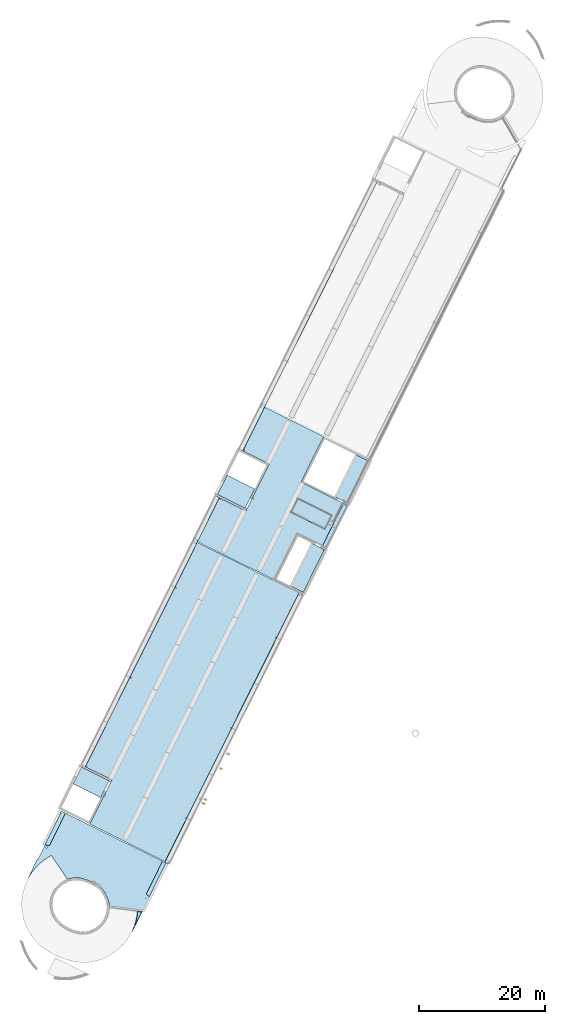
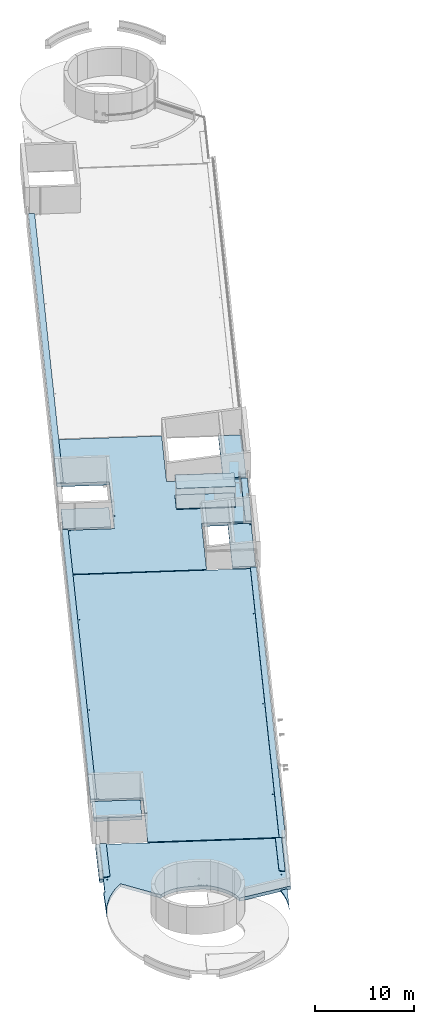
# One storey, part 2 of 34: 16 slabs, 18 openings, 2 elements without a shape of their own.
"""IFC2X3 building model written with IfcOpenShell, lengths in metres."""

from ifc_helpers import new_model, entity, si_unit, converted_unit, derived_unit, direction, frame, frame_2d, origin, origin_2d_with_axis, place, context, subcontext, project, spatial, polyline, circle_curve, parameter, trimmed, segment, composite_curve, rectangle, circle, outline, extrude, material, layer, layer_set, layer_usage, element, aggregate, save


model = new_model("IFC2X3")

# Units and contexts
model_context = context("Model", 3, precision=1e-05, world=origin(), true_north=direction((0.894925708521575, 0.446215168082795)))
context_of_model = context(None, 3, precision=1e-05, world=origin(), true_north=direction((0.894925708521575, 0.446215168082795)))
body_context = subcontext(model_context, "Body", "Model", "MODEL_VIEW")
ifc_project = project(units=[si_unit("LENGTHUNIT", "METRE"), si_unit("AREAUNIT", "SQUARE_METRE"), si_unit("VOLUMEUNIT", "CUBIC_METRE"), converted_unit("PLANEANGLEUNIT", "DEGREE", entity("IfcRatioMeasure", 0.0174532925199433), si_unit("PLANEANGLEUNIT", "RADIAN"), dimensions=[0, 0, 0, 0, 0, 0, 0]), si_unit("MASSUNIT", "GRAM", prefix="KILO"), si_unit("TIMEUNIT", "SECOND"), si_unit("FREQUENCYUNIT", "HERTZ"), si_unit("THERMODYNAMICTEMPERATUREUNIT", "DEGREE_CELSIUS"), derived_unit("THERMALTRANSMITTANCEUNIT", [(si_unit("MASSUNIT", "GRAM", prefix="KILO"), 1), (si_unit("THERMODYNAMICTEMPERATUREUNIT", "KELVIN"), -1), (si_unit("TIMEUNIT", "SECOND"), -3)]), derived_unit("VOLUMETRICFLOWRATEUNIT", [(si_unit("LENGTHUNIT", "METRE"), 3), (si_unit("TIMEUNIT", "SECOND"), -1)]), si_unit("ELECTRICCURRENTUNIT", "AMPERE"), si_unit("ELECTRICVOLTAGEUNIT", "VOLT"), si_unit("POWERUNIT", "WATT"), si_unit("FORCEUNIT", "NEWTON", prefix="KILO"), si_unit("ILLUMINANCEUNIT", "LUX"), si_unit("LUMINOUSFLUXUNIT", "LUMEN"), si_unit("LUMINOUSINTENSITYUNIT", "CANDELA"), si_unit("PRESSUREUNIT", "PASCAL")], contexts=[model_context, context_of_model])

# Site, building, storey
site_placement = place(None, frame((218.228324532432, 584.720189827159, 0.0), z_axis=(0.0, 0.0, 1.0), x_axis=(0.446215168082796, 0.894925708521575, 0.0)))
site = spatial("IfcSite", under=ifc_project, at=site_placement, Name="Default", CompositionType="ELEMENT")
building_placement = place(site_placement, origin())
building = spatial("IfcBuilding", under=site, at=building_placement, CompositionType="ELEMENT")
storey_placement = place(building_placement, frame((0.0, 0.0, 8.61)))
storey = spatial("IfcBuildingStorey", under=building, at=storey_placement, Name="2 - Piano Secondo", CompositionType="ELEMENT", Elevation=8.61)

# Slab, openings
ifc_material_1 = material(Name="Default - Calcestruzzo")
ifc_layer_1 = layer(ifc_material_1, 0.1)
ifc_material_2 = material(Name="Calcestruzzo")
ifc_layer_2 = layer(ifc_material_2, 0.3)
ifc_layer_set_1 = layer_set([ifc_layer_1, ifc_layer_2], Name="Pavimento:In opera Cementizio - 40 cm")
ifc_layer_usage_1 = layer_usage(ifc_layer_set_1, "AXIS3", "POSITIVE", 0.0)
slab_1_placement = place(storey_placement, frame((-72.931351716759, -13.2010845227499, -0.399999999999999)))
slab_1 = element("IfcSlab", 1, at=slab_1_placement, inside=storey, material=ifc_layer_usage_1, Name="Pavimento:In opera Cementizio - 40 cm", ObjectType="Pavimento:In opera Cementizio - 40 cm", PredefinedType="FLOOR", context=body_context, shape_type="SweptSolid", body=[
    extrude(outline(composite_curve([segment(trimmed(circle_curve(frame_2d((6.04288007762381, -0.507841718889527), x_axis=(-1.0, 0.0)), 4.27371394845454), [parameter(60.2070227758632)], [parameter(64.2769666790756)], True, "PARAMETER"), False, "CONTINUOUS"), segment(trimmed(circle_curve(frame_2d((6.59575536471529, -0.110312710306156), x_axis=(-1.0, 0.0)), 4.90154095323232), [parameter(52.0528996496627)], [parameter(56.9055236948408)], True, "PARAMETER"), False, "CONTINUOUS"), segment(trimmed(circle_curve(frame_2d((6.74762894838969, 0.0184275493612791), x_axis=(-1.0, 0.0)), 5.09661667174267), [parameter(28.9780818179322)], [parameter(51.5964999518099)], True, "PARAMETER"), False, "CONTINUOUS"), segment(trimmed(circle_curve(frame_2d((5.40156382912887, -0.573384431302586), x_axis=(-1.0, 0.0)), 3.63484007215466), [parameter(16.2404120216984)], [parameter(31.0973373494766)], True, "PARAMETER"), False, "CONTINUOUS"), segment(trimmed(circle_curve(frame_2d((10.5732937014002, -0.241336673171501), x_axis=(-1.0, 0.0)), 8.7658871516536), [parameter(345.103820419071)], [parameter(8.84987961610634)], True, "PARAMETER"), False, "CONTINUOUS"), segment(trimmed(circle_curve(frame_2d((6.27681561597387, 0.381184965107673), x_axis=(-1.0, 0.0)), 4.48207057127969), [parameter(315.957728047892)], [parameter(338.661674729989)], True, "PARAMETER"), False, "CONTINUOUS"), segment(trimmed(circle_curve(frame_2d((6.30010106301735, -0.00504827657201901), x_axis=(-1.0, 0.0)), 4.77447755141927), [parameter(311.219989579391)], [parameter(312.818680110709)], True, "PARAMETER"), False, "CONTINUOUS"), segment(polyline([(3.15394988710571, 3.58624239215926), (0.916362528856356, 7.55638217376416)]), True, "CONTINUOUS"), segment(trimmed(circle_curve(frame_2d((6.14479588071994, 0.333271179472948), x_axis=(-1.0, 0.0)), 8.91682946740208), [parameter(270.121011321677)], [parameter(305.898818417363)], True, "PARAMETER"), False, "CONTINUOUS"), segment(polyline([(6.12596314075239, 9.25008075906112), (6.13595120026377, 9.26006881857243)]), True, "CONTINUOUS"), segment(polyline([(6.13595120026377, 9.26006881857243), (2.36647303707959, 9.33790456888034)]), True, "CONTINUOUS"), segment(polyline([(2.36647303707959, 9.33790456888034), (2.36647303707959, 9.21680899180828)]), True, "CONTINUOUS"), segment(polyline([(2.36647303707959, 9.21680899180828), (-0.026434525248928, 9.22918215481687)]), True, "CONTINUOUS"), segment(polyline([(-0.026434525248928, 9.22918215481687), (-0.026434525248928, 9.62918750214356)]), True, "CONTINUOUS"), segment(polyline([(-0.026434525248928, 9.62918750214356), (-6.13595120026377, 9.66077837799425)]), True, "CONTINUOUS"), segment(polyline([(-6.13595120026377, 9.66077837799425), (-6.13595120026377, -9.66077837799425)]), True, "CONTINUOUS"), segment(polyline([(-6.13595120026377, -9.66077837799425), (2.35901927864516, -9.66077837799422)]), True, "CONTINUOUS"), segment(polyline([(2.35901927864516, -9.66077837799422), (4.18799724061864, -4.35804178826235)]), True, "CONTINUOUS")], self_intersect=False)), frame((6.13595120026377, 9.66077837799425, 0.399999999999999), z_axis=(0.0, 0.0, -1.0), x_axis=(-1.0, 0.0, 0.0)), (0.0, 0.0, 1.0), 0.4),
])
opening_1_placement = place(slab_1_placement, frame((4.44894525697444, 9.31523843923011, 0.399999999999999)))
element("IfcOpeningElement", 2, at=opening_1_placement, cuts=slab_1, Name="Pavimento:In opera Cementizio - 40 cm:2", ObjectType="Opening", context=body_context, shape_type="SweptSolid", body=[
    extrude(circle(Radius=0.0800000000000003, at=origin_2d_with_axis()), frame((0.0, 0.0, 0.0), z_axis=(0.0, 0.0, -1.0), x_axis=(1.0, 0.0, 0.0)), (0.0, 0.0, 1.0), 0.4),
])
opening_2_placement = place(slab_1_placement, frame((5.85155631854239, 0.820005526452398, 0.399999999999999)))
element("IfcOpeningElement", 3, at=opening_2_placement, cuts=slab_1, Name="Pavimento:In opera Cementizio - 40 cm:3", ObjectType="Opening", context=body_context, shape_type="SweptSolid", body=[
    extrude(circle(Radius=0.060000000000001, at=origin_2d_with_axis()), frame((0.0, 0.0, 0.0), z_axis=(0.0, 0.0, -1.0), x_axis=(1.0, 0.0, 0.0)), (0.0, 0.0, 1.0), 0.4),
])
opening_3_placement = place(slab_1_placement, frame((6.01540890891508, 18.4894088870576, 0.399999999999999)))
element("IfcOpeningElement", 4, at=opening_3_placement, cuts=slab_1, Name="Pavimento:In opera Cementizio - 40 cm:4", ObjectType="Opening", context=body_context, shape_type="SweptSolid", body=[
    extrude(circle(Radius=0.0850000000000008, at=origin_2d_with_axis()), frame((0.0, 0.0, 0.0), z_axis=(0.0, 0.0, -1.0), x_axis=(1.0, 0.0, 0.0)), (0.0, 0.0, 1.0), 0.4),
])
opening_4_placement = place(slab_1_placement, frame((4.42448550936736, 9.05000552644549, 0.399999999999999)))
element("IfcOpeningElement", 5, at=opening_4_placement, cuts=slab_1, Name="Pavimento:In opera Cementizio - 40 cm:5", ObjectType="Opening", context=body_context, shape_type="SweptSolid", body=[
    extrude(circle(Radius=0.0750000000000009, at=origin_2d_with_axis()), frame((0.0, 0.0, 0.0), z_axis=(0.0, 0.0, -1.0), x_axis=(1.0, 0.0, 0.0)), (0.0, 0.0, 1.0), 0.4),
])
opening_5_placement = place(slab_1_placement, frame((4.39912504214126, 8.77500552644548, 0.399999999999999)))
element("IfcOpeningElement", 6, at=opening_5_placement, cuts=slab_1, Name="Pavimento:In opera Cementizio - 40 cm:6", ObjectType="Opening", context=body_context, shape_type="SweptSolid", body=[
    extrude(circle(Radius=0.0450000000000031, at=origin_2d_with_axis()), frame((0.0, 0.0, 0.0), z_axis=(0.0, 0.0, -1.0), x_axis=(1.0, 0.0, 0.0)), (0.0, 0.0, 1.0), 0.4),
])
opening_6_placement = place(slab_1_placement, frame((4.3937645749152, 8.50000552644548, 0.399999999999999)))
element("IfcOpeningElement", 7, at=opening_6_placement, cuts=slab_1, Name="Pavimento:In opera Cementizio - 40 cm:7", ObjectType="Opening", context=body_context, shape_type="SweptSolid", body=[
    extrude(circle(Radius=0.0849999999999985, at=origin_2d_with_axis()), frame((0.0, 0.0, 0.0), z_axis=(0.0, 0.0, -1.0), x_axis=(1.0, 0.0, 0.0)), (0.0, 0.0, 1.0), 0.4),
])

ifc_layer_3 = layer(ifc_material_1, 0.1)
ifc_layer_4 = layer(ifc_material_2, 0.3)
ifc_layer_set_2 = layer_set([ifc_layer_3, ifc_layer_4], Name="Pavimento:Predal Cementizio - 40 cm")
ifc_layer_usage_2 = layer_usage(ifc_layer_set_2, "AXIS3", "POSITIVE", 0.0)
slab_2_placement = place(storey_placement, frame((-60.5294493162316, -13.2110789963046, -0.399999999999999)))
slab_2 = element("IfcSlab", 8, at=slab_2_placement, inside=storey, material=ifc_layer_usage_2, Name="Pavimento:Predal Cementizio - 40 cm", ObjectType="Pavimento:Predal Cementizio - 40 cm", PredefinedType="FLOOR", context=body_context, shape_type="SweptSolid", body=[
    extrude(outline(polyline([(15.9925388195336, 4.3399999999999), (15.9925388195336, 9.67000000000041), (-23.8225388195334, 9.67000000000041), (-23.8225388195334, -9.67000000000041), (23.8225388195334, -9.67000000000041), (23.8225388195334, 4.3399999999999), (15.9925388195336, 4.3399999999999)])), frame((23.8225388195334, 9.67000000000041, 0.399999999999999), z_axis=(0.0, 0.0, -1.0), x_axis=(-1.0, 0.0, 0.0)), (0.0, 0.0, 1.0), 0.4),
])
opening_7_placement = place(slab_2_placement, frame((5.13999999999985, 13.8600000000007, 0.399999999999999)))
element("IfcOpeningElement", 9, at=opening_7_placement, cuts=slab_2, Name="Pavimento:Predal Cementizio - 40 cm:2", ObjectType="Opening", context=body_context, shape_type="SweptSolid", body=[
    extrude(circle(Radius=0.085, at=origin_2d_with_axis()), frame((0.0, 0.0, 0.0), z_axis=(0.0, 0.0, -1.0), x_axis=(1.0, 0.0, 0.0)), (0.0, 0.0, 1.0), 0.4),
])
opening_8_placement = place(slab_2_placement, frame((7.94250000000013, 18.5100000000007, 0.399999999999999)))
element("IfcOpeningElement", 10, at=opening_8_placement, cuts=slab_2, Name="Pavimento:Predal Cementizio - 40 cm:3", ObjectType="Opening", context=body_context, shape_type="SweptSolid", body=[
    extrude(circle(Radius=0.0600000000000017, at=origin_2d_with_axis()), frame((0.0, 0.0, 0.0), z_axis=(0.0, 0.0, -1.0), x_axis=(1.0, 0.0, 0.0)), (0.0, 0.0, 1.0), 0.4),
])
opening_9_placement = place(slab_2_placement, frame((23.6811894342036, 18.5100000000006, 0.399999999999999)))
element("IfcOpeningElement", 11, at=opening_9_placement, cuts=slab_2, Name="Pavimento:Predal Cementizio - 40 cm:4", ObjectType="Opening", context=body_context, shape_type="SweptSolid", body=[
    extrude(circle(Radius=0.0599999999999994, at=origin_2d_with_axis()), frame((0.0, 0.0, 0.0), z_axis=(0.0, 0.0, -1.0), x_axis=(1.0, 0.0, 0.0)), (0.0, 0.0, 1.0), 0.4),
])
opening_10_placement = place(slab_2_placement, frame((39.6904202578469, 18.5100000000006, 0.399999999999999)))
element("IfcOpeningElement", 12, at=opening_10_placement, cuts=slab_2, Name="Pavimento:Predal Cementizio - 40 cm:5", ObjectType="Opening", context=body_context, shape_type="SweptSolid", body=[
    extrude(circle(Radius=0.0600000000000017, at=origin_2d_with_axis()), frame((0.0, 0.0, 0.0), z_axis=(0.0, 0.0, -1.0), x_axis=(1.0, 0.0, 0.0)), (0.0, 0.0, 1.0), 0.4),
])
opening_11_placement = place(slab_2_placement, frame((7.68568790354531, 0.830000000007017, 0.399999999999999)))
element("IfcOpeningElement", 13, at=opening_11_placement, cuts=slab_2, Name="Pavimento:Predal Cementizio - 40 cm:6", ObjectType="Opening", context=body_context, shape_type="SweptSolid", body=[
    extrude(circle(Radius=0.0600000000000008, at=origin_2d_with_axis()), frame((0.0, 0.0, 0.0), z_axis=(0.0, 0.0, -1.0), x_axis=(1.0, 0.0, 0.0)), (0.0, 0.0, 1.0), 0.4),
])
opening_12_placement = place(slab_2_placement, frame((23.681189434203, 0.830000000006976, 0.399999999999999)))
element("IfcOpeningElement", 14, at=opening_12_placement, cuts=slab_2, Name="Pavimento:Predal Cementizio - 40 cm:7", ObjectType="Opening", context=body_context, shape_type="SweptSolid", body=[
    extrude(circle(Radius=0.0600000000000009, at=origin_2d_with_axis()), frame((0.0, 0.0, 0.0), z_axis=(0.0, 0.0, -1.0), x_axis=(1.0, 0.0, 0.0)), (0.0, 0.0, 1.0), 0.4),
])
opening_13_placement = place(slab_2_placement, frame((39.6904202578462, 0.830000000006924, 0.399999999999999)))
element("IfcOpeningElement", 15, at=opening_13_placement, cuts=slab_2, Name="Pavimento:Predal Cementizio - 40 cm:8", ObjectType="Opening", context=body_context, shape_type="SweptSolid", body=[
    extrude(circle(Radius=0.0599999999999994, at=origin_2d_with_axis()), frame((0.0, 0.0, 0.0), z_axis=(0.0, 0.0, -1.0), x_axis=(1.0, 0.0, 0.0)), (0.0, 0.0, 1.0), 0.4),
])

ifc_layer_usage_3 = layer_usage(ifc_layer_set_2, "AXIS3", "POSITIVE", 0.0)
slab_3_placement = place(storey_placement, frame((-12.7843716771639, -13.2010789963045, -0.399999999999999)))
slab_3 = element("IfcSlab", 16, at=slab_3_placement, inside=storey, material=ifc_layer_usage_3, Name="Pavimento:Predal Cementizio - 40 cm", ObjectType="Pavimento:Predal Cementizio - 40 cm", PredefinedType="FLOOR", context=body_context, shape_type="SweptSolid", body=[
    extrude(outline(polyline([(11.9392933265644, -4.56500000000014), (11.9392933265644, 9.6650000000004), (4.1407066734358, 9.6650000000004), (4.1407066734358, 4.33499999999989), (-4.15929332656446, 4.33499999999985), (-4.15929332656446, 9.66500000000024), (-11.9392933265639, 9.66500000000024), (-11.9392933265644, -1.46500000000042), (-3.85929332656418, -1.46500000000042), (-3.85929332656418, -9.6650000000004), (3.7392933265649, -9.6650000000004), (3.7392933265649, -4.5650000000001), (11.9392933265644, -4.56500000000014)])), frame((11.9392933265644, 9.6650000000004, 0.399999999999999), z_axis=(0.0, 0.0, -1.0), x_axis=(-1.0, 0.0, 0.0)), (0.0, 0.0, 1.0), 0.4),
])
opening_14_placement = place(slab_3_placement, frame((10.0385866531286, 13.8500000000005, 0.399999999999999)))
element("IfcOpeningElement", 17, at=opening_14_placement, cuts=slab_3, Name="Pavimento:Predal Cementizio - 40 cm:2", ObjectType="Opening", context=body_context, shape_type="SweptSolid", body=[
    extrude(circle(Radius=0.085, at=origin_2d_with_axis()), frame((0.0, 0.0, 0.0), z_axis=(0.0, 0.0, -1.0), x_axis=(1.0, 0.0, 0.0)), (0.0, 0.0, 1.0), 0.4),
])
opening_15_placement = place(slab_3_placement, frame((7.68608665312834, 18.5000000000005, 0.399999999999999)))
element("IfcOpeningElement", 18, at=opening_15_placement, cuts=slab_3, Name="Pavimento:Predal Cementizio - 40 cm:3", ObjectType="Opening", context=body_context, shape_type="SweptSolid", body=[
    extrude(circle(Radius=0.0600000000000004, at=origin_2d_with_axis()), frame((0.0, 0.0, 0.0), z_axis=(0.0, 0.0, -1.0), x_axis=(1.0, 0.0, 0.0)), (0.0, 0.0, 1.0), 0.4),
])
opening_16_placement = place(slab_3_placement, frame((16.2110866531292, 18.5000000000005, 0.399999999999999)))
element("IfcOpeningElement", 19, at=opening_16_placement, cuts=slab_3, Name="Pavimento:Predal Cementizio - 40 cm:4", ObjectType="Opening", context=body_context, shape_type="SweptSolid", body=[
    extrude(circle(Radius=0.0599999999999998, at=origin_2d_with_axis()), frame((0.0, 0.0, 0.0), z_axis=(0.0, 0.0, -1.0), x_axis=(1.0, 0.0, 0.0)), (0.0, 0.0, 1.0), 0.4),
])

# Roof, slab
roof_1_placement = place(storey_placement, frame((-72.7060175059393, -12.8421854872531, -0.399999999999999)))
roof_1 = element("IfcRoof", 20, at=roof_1_placement, inside=storey, Name="Tetto di base:Finitura Cementizio - 15 cm", ObjectType="Tetto di base:Finitura Cementizio - 15 cm", ShapeType="NOTDEFINED")
ifc_layer_5 = layer(ifc_material_2, 0.15)
ifc_layer_set_3 = layer_set([ifc_layer_5], Name="Tetto di base:Finitura Cementizio - 15 cm")
slab_4_placement = place(roof_1_placement, origin())
slab_4 = element("IfcSlab", 21, at=slab_4_placement, material=ifc_layer_set_3, Name="Tetto di base:Finitura Cementizio - 15 cm", ObjectType="Tetto di base:Finitura Cementizio - 15 cm", PredefinedType="ROOF", context=body_context, shape_type="SweptSolid", body=[
    extrude(outline(composite_curve([segment(polyline([(-1.71390454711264, -0.342226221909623), (1.71390454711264, -0.342226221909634)]), True, "CONTINUOUS"), segment(polyline([(1.71390454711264, -0.342226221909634), (1.47782862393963, 0.342226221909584)]), True, "CONTINUOUS"), segment(trimmed(circle_curve(frame_2d((-1.99950644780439, 8.77364882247), x_axis=(1.0, 0.0)), 9.12034792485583), [parameter(271.794499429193)], [parameter(292.412507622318)], True, "PARAMETER"), False, "CONTINUOUS")], self_intersect=False)), frame((1.71390454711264, 0.342226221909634, 0.0)), (0.0, 0.0, 1.0), 0.149999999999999),
])
aggregate(roof_1, [slab_4])

# Slabs
ifc_material_3 = material(Name="Asfalto, bitume")
ifc_layer_6 = layer(ifc_material_3, 0.01)
ifc_material_4 = material(Name="Sabbia e Calcestruzzo")
ifc_layer_7 = layer(ifc_material_4, 0.09)
ifc_layer_set_4 = layer_set([ifc_layer_6, ifc_layer_7], Name="Pavimento:Marciapiede - 10 cm")
ifc_layer_usage_4 = layer_usage(ifc_layer_set_4, "AXIS3", "POSITIVE", 0.0)
slab_5_placement = place(storey_placement, origin())
element("IfcSlab", 22, at=slab_5_placement, inside=storey, material=ifc_layer_usage_4, Name="Pavimento:Marciapiede - 10 cm", ObjectType="Pavimento:Marciapiede - 10 cm", PredefinedType="FLOOR", context=body_context, shape_type="SweptSolid", body=[
    extrude(outline(composite_curve([segment(polyline([(-0.365072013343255, -2.91394678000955), (0.334937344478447, -2.91394678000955)]), True, "CONTINUOUS"), segment(polyline([(0.334937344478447, -2.91394678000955), (0.3645905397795, 2.82083221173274)]), True, "CONTINUOUS"), segment(trimmed(circle_curve(frame_2d((-0.286735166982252, 1.78107380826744), x_axis=(0.530864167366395, 0.847456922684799)), 1.22691593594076), [parameter(0.0)], [parameter(34.2929344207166)], True, "PARAMETER"), True, "CONTINUOUS"), segment(polyline([(-0.334455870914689, 3.00706134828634), (-0.365072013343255, -2.91394678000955)]), True, "CONTINUOUS")], self_intersect=False)), frame((-63.573396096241, 5.35539487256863, 0.1), z_axis=(0.0, 0.0, -1.0), x_axis=(0.0, -1.0, 0.0)), (0.0, 0.0, 1.0), 0.1),
])
ifc_layer_usage_5 = layer_usage(ifc_layer_set_4, "AXIS3", "POSITIVE", 0.0)
slab_6_placement = place(storey_placement, origin())
element("IfcSlab", 23, at=slab_6_placement, inside=storey, material=ifc_layer_usage_5, Name="Pavimento:Marciapiede - 10 cm", ObjectType="Pavimento:Marciapiede - 10 cm", PredefinedType="FLOOR", context=body_context, shape_type="SweptSolid", body=[
    extrude(outline(composite_curve([segment(polyline([(-3.52144370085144, -0.319466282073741), (2.39873852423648, -0.319466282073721)]), True, "CONTINUOUS"), segment(trimmed(circle_curve(frame_2d((0.145094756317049, -0.237825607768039), x_axis=(0.999344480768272, -0.0362023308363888)), 2.25512204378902), [parameter(0.0)], [parameter(8.58525009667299)], True, "PARAMETER"), True, "CONTINUOUS"), segment(trimmed(circle_curve(frame_2d((1.62942735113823, -0.155877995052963), x_axis=(0.974607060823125, 0.223922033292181)), 0.77594977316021), [parameter(0.0)], [parameter(22.8979426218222)], True, "PARAMETER"), True, "CONTINUOUS"), segment(polyline([(2.25847539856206, 0.298430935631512), (-3.52144370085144, 0.322627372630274)]), True, "CONTINUOUS"), segment(polyline([(-3.52144370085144, 0.322627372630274), (-3.52144370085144, -0.319466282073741)]), True, "CONTINUOUS")], self_intersect=False)), frame((-64.1808930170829, -12.4816182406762, 0.100000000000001), z_axis=(0.0, 0.0, -1.0), x_axis=(-1.0, 0.0, 0.0)), (0.0, 0.0, 1.0), 0.1),
])

# Slab, opening
ifc_layer_8 = layer(ifc_material_4, 0.08)
ifc_layer_9 = layer(ifc_material_2, 0.2)
ifc_layer_set_5 = layer_set([ifc_layer_8, ifc_layer_9], Name="Pavimento:CA-caldana - 28 cm")
ifc_layer_usage_6 = layer_usage(ifc_layer_set_5, "AXIS3", "POSITIVE", 0.0)
slab_7_placement = place(storey_placement, frame((-12.4843716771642, -13.1110789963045, -0.279999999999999)))
slab_7 = element("IfcSlab", 24, at=slab_7_placement, inside=storey, material=ifc_layer_usage_6, Name="Pavimento:CA-caldana - 28 cm", ObjectType="Pavimento:CA-caldana - 28 cm", PredefinedType="FLOOR", context=body_context, shape_type="SweptSolid", body=[
    extrude(rectangle(XDim=7.5999999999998, YDim=2.36000000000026, at=frame_2d((0.0, 0.0), x_axis=(-1.0, 0.0))), frame((3.7999999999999, 1.18000000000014, 0.279999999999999), z_axis=(0.0, 0.0, -1.0), x_axis=(-1.0, 0.0, 0.0)), (0.0, 0.0, 1.0), 0.28),
])
opening_17_placement = place(slab_7_placement, frame((7.38608665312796, 0.112499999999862, 0.279999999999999)))
element("IfcOpeningElement", 25, at=opening_17_placement, cuts=slab_7, Name="Pavimento:CA-caldana - 28 cm:2", ObjectType="Opening", context=body_context, shape_type="SweptSolid", body=[
    extrude(circle(Radius=0.0599999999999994, at=origin_2d_with_axis()), frame((0.0, 0.0, 0.0), z_axis=(0.0, 0.0, -1.0), x_axis=(1.0, 0.0, 0.0)), (0.0, 0.0, 1.0), 0.28),
])

ifc_layer_usage_7 = layer_usage(ifc_layer_set_5, "AXIS3", "POSITIVE", 0.0)
slab_8_placement = place(storey_placement, frame((3.31421497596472, -13.1110789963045, -0.279999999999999)))
slab_8 = element("IfcSlab", 26, at=slab_8_placement, inside=storey, material=ifc_layer_usage_7, Name="Pavimento:CA-caldana - 28 cm", ObjectType="Pavimento:CA-caldana - 28 cm", PredefinedType="FLOOR", context=body_context, shape_type="SweptSolid", body=[
    extrude(rectangle(XDim=2.36000000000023, YDim=7.47999999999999, at=frame_2d((0.0, 0.0), x_axis=(0.0, 1.0))), frame((3.74, 1.18000000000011, 0.279999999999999), z_axis=(0.0, 0.0, -1.0), x_axis=(-1.0, 0.0, 0.0)), (0.0, 0.0, 1.0), 0.28),
])
opening_18_placement = place(slab_8_placement, frame((0.112499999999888, 0.730000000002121, 0.279999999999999)))
element("IfcOpeningElement", 27, at=opening_18_placement, cuts=slab_8, Name="Pavimento:CA-caldana - 28 cm:2", ObjectType="Opening", context=body_context, shape_type="SweptSolid", body=[
    extrude(circle(Radius=0.0599999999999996, at=origin_2d_with_axis()), frame((0.0, 0.0, 0.0), z_axis=(0.0, 0.0, -1.0), x_axis=(1.0, 0.0, 0.0)), (0.0, 0.0, 1.0), 0.28),
])

# Slabs
ifc_layer_10 = layer(ifc_material_3, 0.01)
ifc_layer_11 = layer(ifc_material_4, 0.05)
ifc_layer_12 = layer(ifc_material_2, 0.35)
ifc_layer_set_6 = layer_set([ifc_layer_10, ifc_layer_11, ifc_layer_12], Name="Pavimento:Solaio scala P2 41 cm")
ifc_layer_usage_8 = layer_usage(ifc_layer_set_6, "AXIS3", "POSITIVE", 0.0)
slab_9_placement = place(storey_placement, origin())
element("IfcSlab", 28, at=slab_9_placement, inside=storey, material=ifc_layer_usage_8, Name="Pavimento:Solaio scala P2 41 cm", ObjectType="Pavimento:Solaio scala P2 41 cm", PredefinedType="FLOOR", context=body_context, shape_type="SweptSolid", body=[
    extrude(outline(polyline([(-0.830000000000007, -0.996720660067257), (2.86, -0.996720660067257), (2.86, 1.98327933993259), (-2.02999999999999, 1.98327933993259), (-2.02999999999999, -0.98655867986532), (-0.830000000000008, -0.98655867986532), (-0.830000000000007, -0.996720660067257)])), frame((-54.9927286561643, 3.13892100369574, 0.0), z_axis=(0.0, 0.0, -1.0), x_axis=(0.0, 1.0, 0.0)), (0.0, 0.0, 1.0), 0.41),
])
ifc_layer_usage_9 = layer_usage(ifc_layer_set_4, "AXIS3", "POSITIVE", 0.0)
slab_10_placement = place(storey_placement, origin())
element("IfcSlab", 29, at=slab_10_placement, inside=storey, material=ifc_layer_usage_9, Name="Pavimento:Marciapiede - 10 cm", ObjectType="Pavimento:Marciapiede - 10 cm", PredefinedType="FLOOR", context=body_context, shape_type="SweptSolid", body=[
    extrude(rectangle(XDim=0.639999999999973, YDim=47.7136642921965, at=frame_2d((3.8441472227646e-14, 0.0), x_axis=(1.0, 0.0))), frame((-28.8426171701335, 5.80892100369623, 0.1), z_axis=(0.0, 0.0, -1.0), x_axis=(0.0, 1.0, 0.0)), (0.0, 0.0, 1.0), 0.1),
])
ifc_layer_usage_10 = layer_usage(ifc_layer_set_4, "AXIS3", "POSITIVE", 0.0)
slab_11_placement = place(storey_placement, origin())
element("IfcSlab", 30, at=slab_11_placement, inside=storey, material=ifc_layer_usage_10, Name="Pavimento:Marciapiede - 10 cm", ObjectType="Pavimento:Marciapiede - 10 cm", PredefinedType="FLOOR", context=body_context, shape_type="SweptSolid", body=[
    extrude(rectangle(XDim=0.649999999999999, YDim=47.8750776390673, at=frame_2d((1.08246744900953e-15, 0.0), x_axis=(1.0, 0.0))), frame((-36.7219104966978, -12.8760789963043, 0.1), z_axis=(0.0, 0.0, -1.0), x_axis=(0.0, 1.0, 0.0)), (0.0, 0.0, 1.0), 0.1),
])
ifc_layer_usage_11 = layer_usage(ifc_layer_set_4, "AXIS3", "POSITIVE", 0.0)
slab_12_placement = place(storey_placement, origin())
element("IfcSlab", 31, at=slab_12_placement, inside=storey, material=ifc_layer_usage_11, Name="Pavimento:Marciapiede - 10 cm", ObjectType="Pavimento:Marciapiede - 10 cm", PredefinedType="FLOOR", context=body_context, shape_type="SweptSolid", body=[
    extrude(rectangle(XDim=0.649999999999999, YDim=7.59858665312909, at=frame_2d((1.08246744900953e-15, 0.0), x_axis=(1.0, 0.0))), frame((-0.785078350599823, -12.8760789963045, 0.1), z_axis=(0.0, 0.0, -1.0), x_axis=(0.0, 1.0, 0.0)), (0.0, 0.0, 1.0), 0.1),
])
ifc_layer_usage_12 = layer_usage(ifc_layer_set_4, "AXIS3", "POSITIVE", 0.0)
slab_13_placement = place(storey_placement, origin())
element("IfcSlab", 32, at=slab_13_placement, inside=storey, material=ifc_layer_usage_12, Name="Pavimento:Marciapiede - 10 cm", ObjectType="Pavimento:Marciapiede - 10 cm", PredefinedType="FLOOR", context=body_context, shape_type="SweptSolid", body=[
    extrude(rectangle(XDim=0.66, YDim=47.6917220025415, at=frame_2d((-5.55111512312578e-16, 0.0), x_axis=(1.0, 0.0))), frame((27.1600759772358, 5.7989210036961, 0.1), z_axis=(0.0, 0.0, -1.0), x_axis=(0.0, 1.0, 0.0)), (0.0, 0.0, 1.0), 0.1),
])
ifc_layer_usage_13 = layer_usage(ifc_layer_set_6, "AXIS3", "POSITIVE", 0.0)
slab_14_placement = place(storey_placement, origin())
element("IfcSlab", 33, at=slab_14_placement, inside=storey, material=ifc_layer_usage_13, Name="Pavimento:Solaio scala P2 41 cm", ObjectType="Pavimento:Solaio scala P2 41 cm", PredefinedType="FLOOR", context=body_context, shape_type="SweptSolid", body=[
    extrude(outline(polyline([(-2.02666666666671, -2.29661267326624), (2.85333333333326, -2.29661267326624), (2.85333333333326, 1.15338732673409), (-0.826666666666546, 1.15338732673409), (-0.826666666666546, 1.14322534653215), (-2.02666666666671, 1.14322534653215), (-2.02666666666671, -2.29661267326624)])), frame((-2.37917235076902, 3.13558767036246, 0.0), z_axis=(0.0, 0.0, -1.0), x_axis=(0.0, 1.0, 0.0)), (0.0, 0.0, 1.0), 0.41),
])
ifc_material_5 = material(Name="Acciaio")
ifc_layer_13 = layer(ifc_material_5, 0.1)
ifc_layer_set_7 = layer_set([ifc_layer_13], Name="Pavimento:Pavimento container")
ifc_layer_usage_14 = layer_usage(ifc_layer_set_7, "AXIS3", "POSITIVE", 0.0)
slab_15_placement = place(storey_placement, origin())
element("IfcSlab", 34, at=slab_15_placement, inside=storey, material=ifc_layer_usage_14, Name="Pavimento:Pavimento container", ObjectType="Pavimento:Pavimento container", PredefinedType="FLOOR", context=body_context, shape_type="SweptSolid", body=[
    extrude(rectangle(XDim=6.02933184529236, YDim=2.43453502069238, at=frame_2d((-6.94999613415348e-14, 1.88515869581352e-13), x_axis=(1.0, 0.0))), frame((-0.767910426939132, -8.70997825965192, 0.1), z_axis=(0.0, 0.0, -1.0), x_axis=(0.00183398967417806, -0.999998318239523, 0.0)), (0.0, 0.0, 1.0), 0.1),
])

# Roof, slab
roof_2_placement = place(storey_placement, frame((-1.99070475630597, -11.7268715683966, 2.55)))
roof_2 = element("IfcRoof", 35, at=roof_2_placement, inside=storey, Name="Tetto di base:Container - 5 cm", ObjectType="Tetto di base:Container - 5 cm", ShapeType="NOTDEFINED")
ifc_layer_14 = layer(ifc_material_5, 0.05)
ifc_layer_set_8 = layer_set([ifc_layer_14], Name="Tetto di base:Container - 5 cm")
slab_16_placement = place(roof_2_placement, origin())
slab_16 = element("IfcSlab", 36, at=slab_16_placement, material=ifc_layer_set_8, Name="Tetto di base:Container - 5 cm", ObjectType="Tetto di base:Container - 5 cm", PredefinedType="ROOF", context=body_context, shape_type="SweptSolid", body=[
    extrude(rectangle(XDim=2.43453502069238, YDim=6.02933184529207, at=frame_2d((0.0, -1.4077627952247e-13), x_axis=(0.999998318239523, 0.00183398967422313))), frame((1.22279432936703, 3.01689330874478, 0.0)), (0.0, 0.0, 1.0), 0.0499999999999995),
])
aggregate(roof_2, [slab_16])

save(model, "model.ifc")
